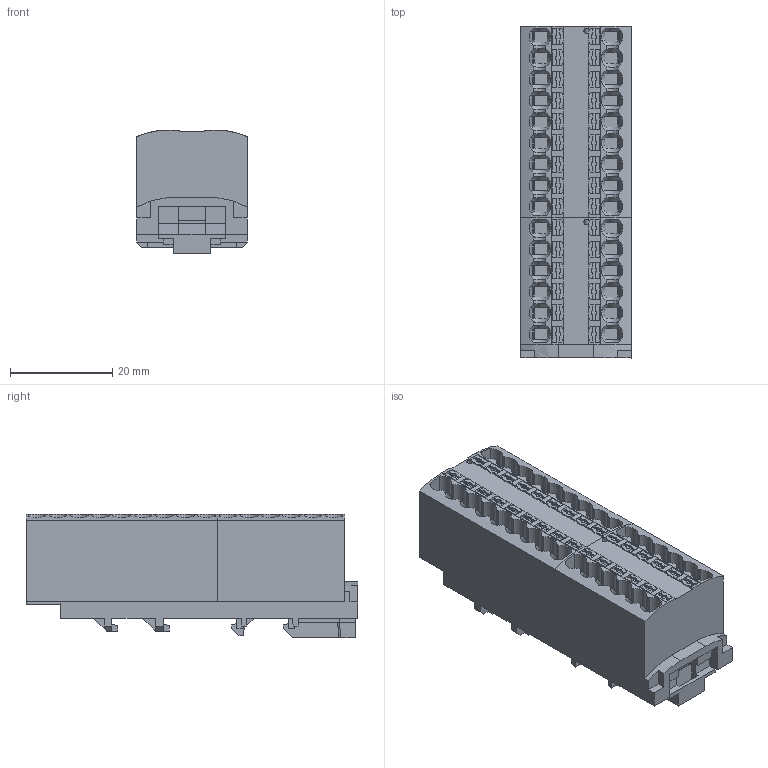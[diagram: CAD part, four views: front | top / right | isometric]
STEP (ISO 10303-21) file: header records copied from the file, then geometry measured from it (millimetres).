
FILE_DESCRIPTION(/* description */ ('Unknown'),/* implementation_level */ '2;1');
FILE_NAME(/* name */ 'PTFIX1,5-30P BUBN 1272370',/* time_stamp */ '2021-05-27T18:31:53+09:00',/* author */ ('Unknown'),/* organization */ ('Unknown'),/* preprocessor_version */ 'ST-DEVELOPER v16.7',/* originating_system */ 'Solid Edge',/* authorisation */ 'Unknown');
FILE_SCHEMA (('AUTOMOTIVE_DESIGN {1 0 10303 214 3 1 1}'));
Products named in the file (4): PTFIX1,5-30P BUBN 1272370; pxc_1049497_00_PTFIX-1-5-NS35_3D (3); pxc_3002776_03_PTFIX-12X1-5-BN_3D (1); pxc_3002764_03_PTFIX-18X1-5-BU_3D (3)
Assembly tree (3 placements, depth 2):
  PTFIX1,5-30P BUBN 1272370
    pxc_1049497_00_PTFIX-1-5-NS35_3D (3)
    pxc_3002776_03_PTFIX-12X1-5-BN_3D (1)
    pxc_3002764_03_PTFIX-18X1-5-BU_3D (3)
Bounding box: 21.6 x 64.8 x 24.15 mm (x, y, z)
Volume: 24454.9 mm3; surface area: 15448.9 mm2
Topology: 3 solids, 3 shells, 1248 faces, 3776 edges, 2536 vertices
Faces by surface type: plane 1059, cone 90, cylinder 73, bspline 26
Entity records: 82747 total; most frequent: CARTESIAN_POINT 40636, ORIENTED_EDGE 7552, DIRECTION 6142, EDGE_CURVE 3776, LINE 2882, VECTOR 2882, VERTEX_POINT 2536, AXIS2_PLACEMENT_3D 1630
